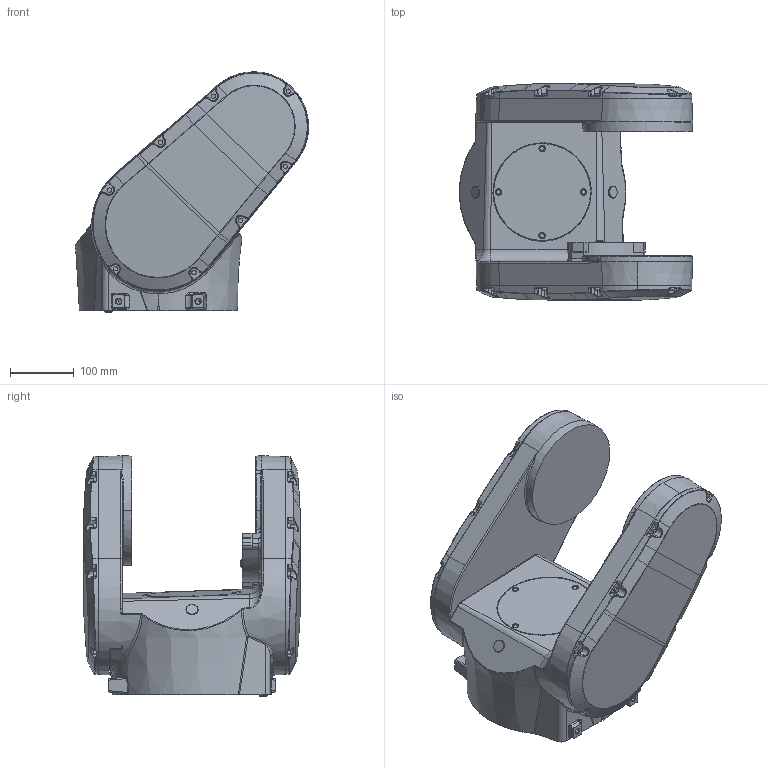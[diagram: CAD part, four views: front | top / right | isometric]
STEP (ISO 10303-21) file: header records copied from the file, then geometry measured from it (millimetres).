
FILE_DESCRIPTION (( 'STEP AP214' ), '1' );
FILE_NAME ('IRB1300 Type A_10Kg-1150-IP40IP67CR-STD_OC_00_link1.STEP', '2026-05-19T12:44:59', ( '' ), ( '' ), 'SwSTEP 2.0', 'SolidWorks 2024', '' );
FILE_SCHEMA (( 'AUTOMOTIVE_DESIGN' ));
Products named in the file (1): IRB1300 Type A_10Kg-1150-IP40IP67CR-STD_OC_00_link1
Bounding box: 367.2 x 340 x 378.5 mm (x, y, z)
Volume: 16322529.3 mm3; surface area: 574940.9 mm2
Topology: 1 solids, 10 shells, 1034 faces, 2519 edges, 1474 vertices
Faces by surface type: bspline 361, cylinder 277, plane 200, cone 121, torus 71, sphere 4
Entity records: 53488 total; most frequent: CARTESIAN_POINT 32351, ORIENTED_EDGE 4892, DIRECTION 3756, EDGE_CURVE 2446, AXIS2_PLACEMENT_3D 1490, VERTEX_POINT 1474, EDGE_LOOP 1076, FACE_OUTER_BOUND 1034
